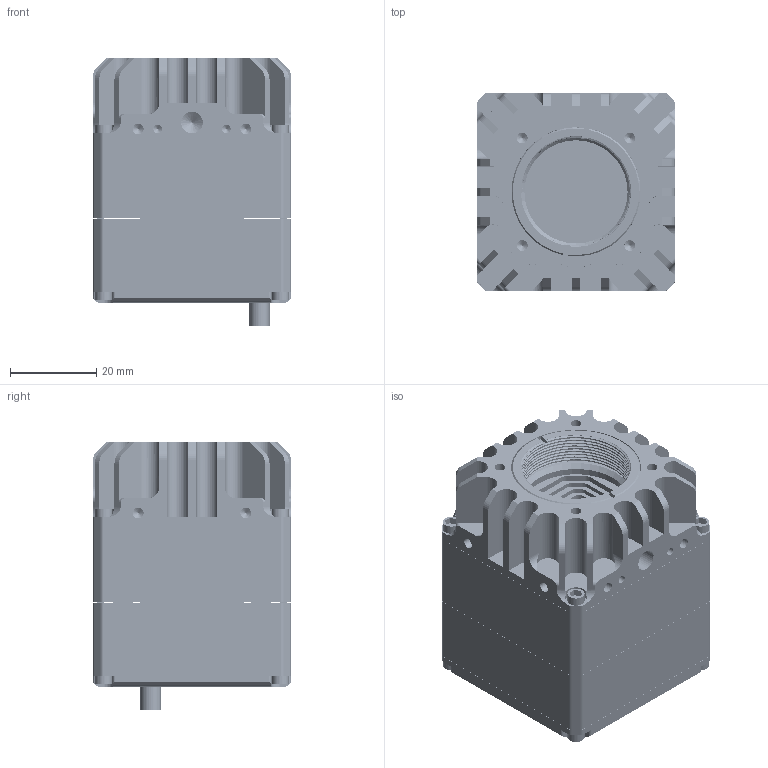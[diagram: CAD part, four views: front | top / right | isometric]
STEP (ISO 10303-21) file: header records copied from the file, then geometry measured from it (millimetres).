
FILE_DESCRIPTION (( 'STEP AP214' ), '1' );
FILE_NAME ('9SMC1601IT31VC0A.STEP', '2018-04-06T05:56:25', ( '' ), ( '' ), 'SwSTEP 2.0', 'SolidWorks 2016', '' );
FILE_SCHEMA (( 'AUTOMOTIVE_DESIGN' ));
Length unit declared in the file: millimetre
Products named in the file (29): PDA640; OEP252-2; MT234022490A; peltier; 7M17016-01-A; AWA4B002B; M15011-01A; 9NSC1201X0; Pièce11^9NSC1201X0; 7MVACMxxxxxM1FIx_M2x12; 7M17016-04-A; NSC1201-Glue; 7M17016-06-A; 7M17016-02-A; 9SMC1601IT31VC0A; 7MVACMxxxxxM1FIx_M1,6x6; OEP252(TEC)-Glue; 7M15010-01-A; 7MVACMxxxxxM1FIx_M2x8; 7M17016-03-A; 7MVACMxxxxxM1FIx_M1,6x8; 9NSC1201X0I_NSC1201; 0402; 7MVADMxxxxxM1FIx_M3x6; E17002-02-01-3d; 7MVADMxxxxxM1FIx_M3x8; E17002-05-01-3d; E17002-03-01-3D; E17002-01-01-3D
Assembly tree (60 placements, depth 3):
  Pièce11^9NSC1201X0
  9SMC1601IT31VC0A
    E17002-02-01-3d
    7M17016-01-A
    7M17016-02-A
    7M17016-03-A
    7M17016-04-A
    9NSC1201X0
      OEP252-2
      peltier
      7M15010-01-A
      9NSC1201X0I_NSC1201
      0402  x8
      MT234022490A
      NSC1201-Glue
      PDA640
      OEP252(TEC)-Glue
      M15011-01A
    AWA4B002B
    7MVACMxxxxxM1FIx_M2x12  x4
    7MVACMxxxxxM1FIx_M2x8  x4
    7MVACMxxxxxM1FIx_M1,6x6  x4
    7M17016-06-A
    7MVACMxxxxxM1FIx_M1,6x8  x4
    E17002-01-01-3D
    E17002-03-01-3D
    E17002-05-01-3d
    7MVADMxxxxxM1FIx_M3x8  x4
    7MVADMxxxxxM1FIx_M3x6  x12
Bounding box: 46 x 46 x 62.46 mm (x, y, z)
Volume: 57374.2 mm3; surface area: 74324.5 mm2
Topology: 55 solids, 1604 shells, 12281 faces, 43294 edges, 32019 vertices
Faces by surface type: plane 10979, cylinder 1190, cone 102, bspline 10
Entity records: 557317 total; most frequent: CARTESIAN_POINT 92121, DIRECTION 68676, ORIENTED_EDGE 62791, EDGE_CURVE 42188, LINE 37684, VECTOR 37684, VERTEX_POINT 31331, AXIS2_PLACEMENT_3D 15496
